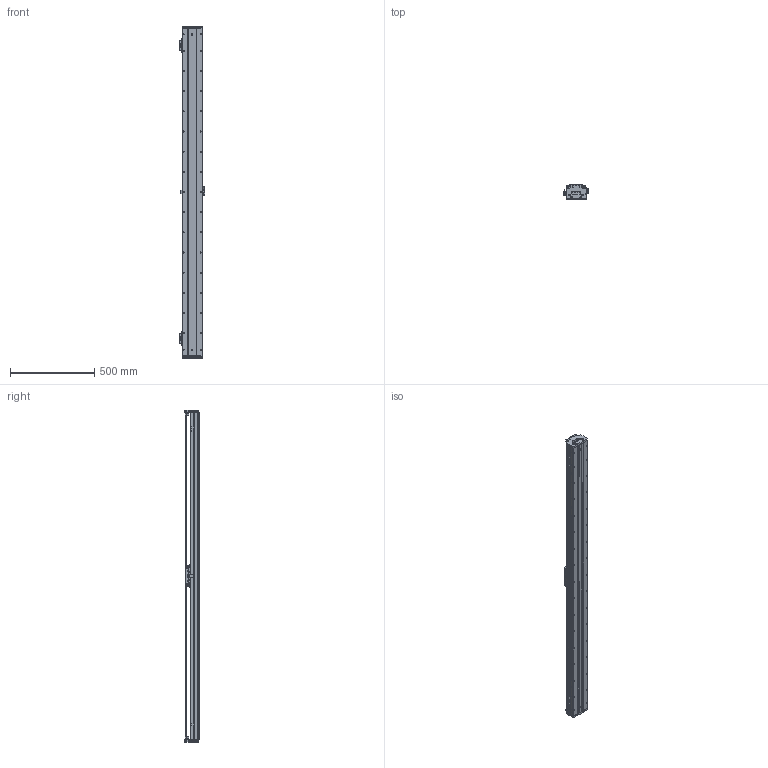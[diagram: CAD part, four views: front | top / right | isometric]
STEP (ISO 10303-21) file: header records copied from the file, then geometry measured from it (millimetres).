
FILE_DESCRIPTION (( 'STEP AP203' ), '1' );
FILE_NAME ('DKW120-B15-W060（T1740-L005-0.2）.STEP', '2021-09-07T00:59:54', ( '微软用户' ), ( '微软中国' ), 'SwSTEP 2.0', 'SolidWorks 2018', '' );
FILE_SCHEMA (( 'CONFIG_CONTROL_DESIGN' ));
Length unit declared in the file: millimetre
Products named in the file (24): DKW120-B15-W060（T1740-L005-0.2）; DKW120 单轴模组-拉钢带组件; MSB15-DG-U; BKMA01-W060-TRL280; 06652-0001-001-00 DKW120傷啣; DKW120-B15-T300-DZ-00 菁釱; RUS嫖掑喜; 06652-0001-004-00 DKW120嶺輸菜輸; DKW-SG-GYP-H-00 嫖萇覜茼え; Ru2; DKW-HXJ-JY-00 遣喳砎蝶; DKW-HYB-JY-A-00 賑輸揤啣A; RUS嫖掑郪璃; 10940-0001-004-00 120詩湍裔啣; DKW119-HT-C15-00 賑怢啣; DKW119-RU-DTJ-00 RU2黍杅芛盓殤; 砎蝶猾沭; MSB15TS2FC+U92.7-16.35_16.35N_(0_45.85_0_01G-M4); 10980-0001-003-00 嫖萇羲壽嘐隅釱; 12160-0000-003-00 DKW120詩湍嶺輸; BKM015-W060-C1-TP-3; EE_SX674A; 12160-0000-004-00  DKW120詩湍揤輸; B15-W060
Assembly tree (41 placements, depth 3):
  DKW120-B15-W060（T1740-L005-0.2）
    DKW120-B15-T300-DZ-00 菁釱
    B15-W060
      DKW-SG-GYP-H-00 嫖萇覜茼え
      DKW-HYB-JY-A-00 賑輸揤啣A  x2
      DKW119-HT-C15-00 賑怢啣
      MSB15TS2FC+U92.7-16.35_16.35N_(0_45.85_0_01G-M4)  x4
      BKM015-W060-C1-TP-3
    MSB15-DG-U  x2
    DKW120 单轴模组-拉钢带组件
      06652-0001-001-00 DKW120傷啣  x2
      06652-0001-004-00 DKW120嶺輸菜輸  x4
      DKW-HXJ-JY-00 遣喳砎蝶  x4
      10940-0001-004-00 120詩湍裔啣
      砎蝶猾沭  x2
      12160-0000-003-00 DKW120詩湍嶺輸  x2
      12160-0000-004-00  DKW120詩湍揤輸  x2
    BKMA01-W060-TRL280
    RUS嫖掑郪璃
      RUS嫖掑喜
      Ru2
    DKW119-RU-DTJ-00 RU2黍杅芛盓殤
    10980-0001-003-00 嫖萇羲壽嘐隅釱  x2
    EE_SX674A  x3
Bounding box: 154.11 x 84 x 1976 mm (x, y, z)
Volume: 6658988.5 mm3; surface area: 2681017.6 mm2
Topology: 49 solids, 98 shells, 4516 faces, 12417 edges, 8009 vertices
Faces by surface type: plane 2467, cylinder 1416, cone 366, bspline 267
Entity records: 127426 total; most frequent: CARTESIAN_POINT 45847, ORIENTED_EDGE 16887, DIRECTION 15489, EDGE_CURVE 8484, VERTEX_POINT 5572, AXIS2_PLACEMENT_3D 5183, VECTOR 5123, LINE 5123
